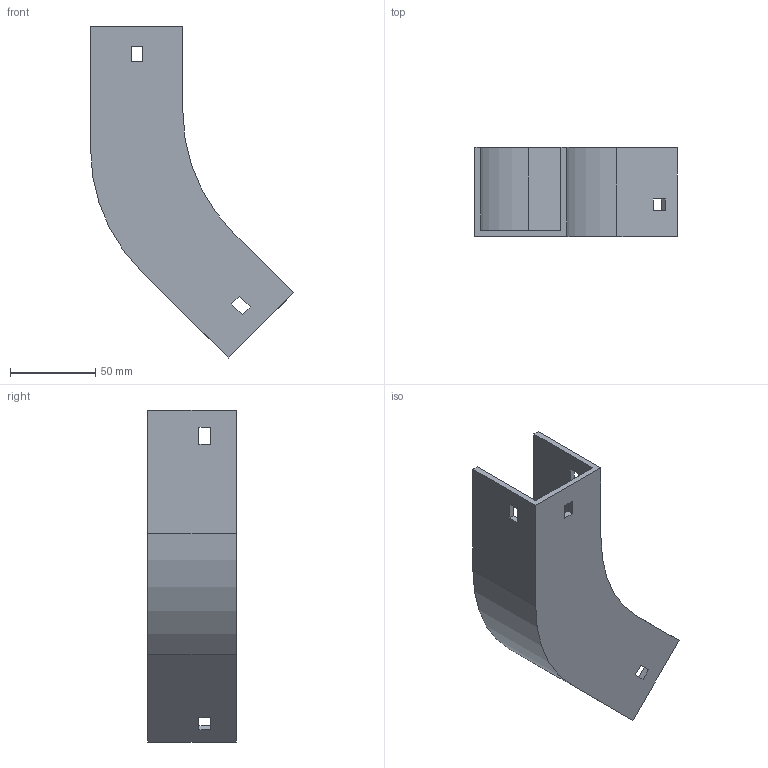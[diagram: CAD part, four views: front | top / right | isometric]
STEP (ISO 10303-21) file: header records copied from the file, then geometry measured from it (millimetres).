
FILE_DESCRIPTION (( 'STEP AP214' ), '1' );
FILE_NAME ('11B1B050.step', '2025-02-21T09:37:23', ( '' ), ( '' ), 'SwSTEP 2.0', 'SolidWorks 2023', '' );
FILE_SCHEMA (( 'AUTOMOTIVE_DESIGN' ));
Length unit declared in the file: millimetre
Products named in the file (1): 11B1B050
Bounding box: 118.64 x 52 x 194.25 mm (x, y, z)
Volume: 105603.3 mm3; surface area: 63501.1 mm2
Topology: 1 solids, 1 shells, 42 faces, 120 edges, 80 vertices
Faces by surface type: plane 38, cylinder 4
Entity records: 1399 total; most frequent: CARTESIAN_POINT 243, ORIENTED_EDGE 240, DIRECTION 214, EDGE_CURVE 120, LINE 112, VECTOR 112, VERTEX_POINT 80, EDGE_LOOP 54
